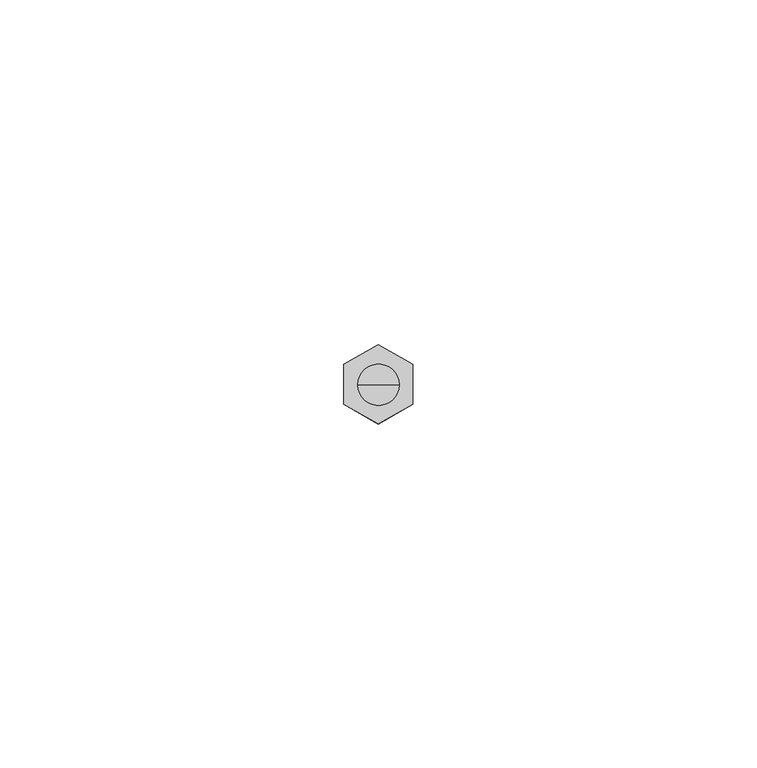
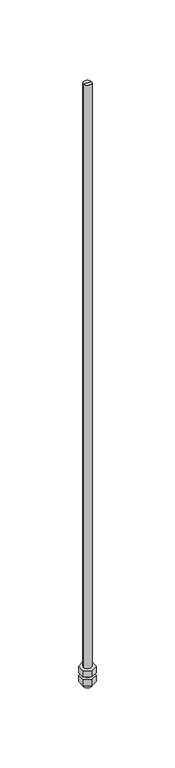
"""IFC4 building model written with IfcOpenShell, lengths in millimetres: proxy geometry, durlum_threaded_rod_M6 : durlum_threaded_rod_M6."""

from ifc_helpers import new_model, si_unit, frame, origin, origin_with_axes, place, context, project, spatial, polyline, circle_curve, outline, extrude, source, transform, mapped, element, save
from ifc_brep_helpers import plane_surface, cylinder_surface, advanced_brep


def generic_models_e66d4f3b(model_context):
    return source(origin(), model_context, "Body", "SolidModel", [
        extrude(outline(polyline([(5.0, 3.0421914), (5.0, -2.7313113), (0.0, -5.6180626), (-5.0, -2.7313113), (-5.0, 3.0421914), (0.0, 5.9289428), (5.0, 3.0421914)])), frame((0.0, 0.0, -7.0), z_axis=(0.0, 0.0, 1.0), x_axis=(1.0, 0.0, 0.0)), (0.0, 0.0, 1.0), 5.0),
        extrude(outline(polyline([(5.0, 3.0421914), (5.0, -2.7313113), (0.0, -5.6180626), (-5.0, -2.7313113), (-5.0, 3.0421914), (0.0, 5.9289428), (5.0, 3.0421914)])), origin_with_axes(), (0.0, 0.0, 1.0), 5.0),
        advanced_brep(
        [(-3.0, 0.0, 471.7017688), (3.0, 0.0, 471.7017688), (3.0, 0.0, -10.0), (-3.0, 0.0, -10.0), (0.0, 0.0, 471.7017688), (0.0, 0.0, -10.0)],
        [
            (0, 1, circle_curve(frame((0.0, 0.0, 471.7017688), z_axis=(0.0, 0.0, -1.0), x_axis=(1.0, 0.0, 0.0)), 3.0)),
            (1, 2),
            (2, 3, circle_curve(frame((0.0, 0.0, -10.0), z_axis=(0.0, 0.0, 1.0), x_axis=(1.0, 0.0, 0.0)), 3.0)),
            (3, 0),
            (1, 0, circle_curve(frame((0.0, 0.0, 471.7017688), z_axis=(0.0, 0.0, -1.0), x_axis=(1.0, 0.0, 0.0)), 3.0)),
            (3, 2, circle_curve(frame((0.0, 0.0, -10.0), z_axis=(0.0, 0.0, 1.0), x_axis=(1.0, 0.0, 0.0)), 3.0)),
            (4, 1),
            (0, 4),
            (2, 5),
            (5, 3),
        ],
        [
            cylinder_surface(frame((0.0, 0.0, -675.0), z_axis=(0.0, 0.0, 1.0), x_axis=(1.0, 0.0, 0.0)), 3.0),
            plane_surface(frame((0.0, 0.0, 471.7017688), z_axis=(0.0, 0.0, 1.0), x_axis=(1.0, 0.0, 0.0))),
            plane_surface(frame((0.0, 0.0, -10.0), z_axis=(0.0, 0.0, -1.0), x_axis=(1.0, 0.0, 0.0))),
        ],
        [
            (0, [[1, 2, 3, 4]]),
            (0, [[5, -4, 6, -2]]),
            (1, [[7, -1, 8]]),
            (1, [[-8, -5, -7]]),
            (2, [[-3, 9, 10]]),
            (2, [[-6, -10, -9]]),
        ],
    ),
    ])


if __name__ == "__main__":
    model = new_model("IFC4")
    model_context = context("Model", 3, world=origin())
    ifc_project = project(units=[si_unit("LENGTHUNIT", "METRE", prefix="MILLI")], contexts=[model_context])
    site = spatial("IfcSite", under=ifc_project)
    building = spatial("IfcBuilding", under=site)
    placement = place(None, origin())
    generic_models_shape = generic_models_e66d4f3b(model_context)
    element("IfcBuildingElementProxy", 1, Name="durlum_threaded_rod_M6 : durlum_threaded_rod_M6", ObjectType="durlum_threaded_rod_M6 : durlum_threaded_rod_M6", at=placement, inside=building, context=model_context, shape_type="MappedRepresentation", body=[
        mapped(generic_models_shape, transform((0.0, 0.0, 0.0), x_axis=(1.0, 0.0, 0.0), y_axis=(0.0, 1.0, 0.0), z_axis=(0.0, 0.0, 1.0))),
    ])
    save(model, "model.ifc")
